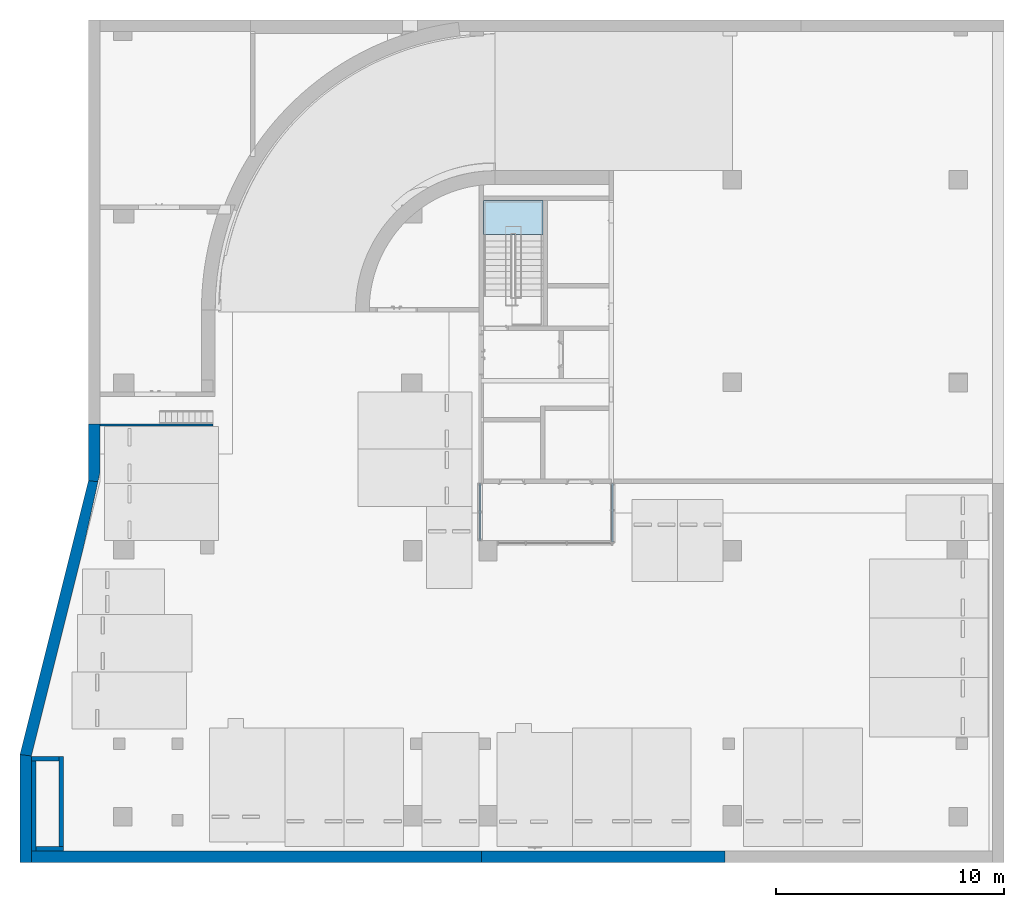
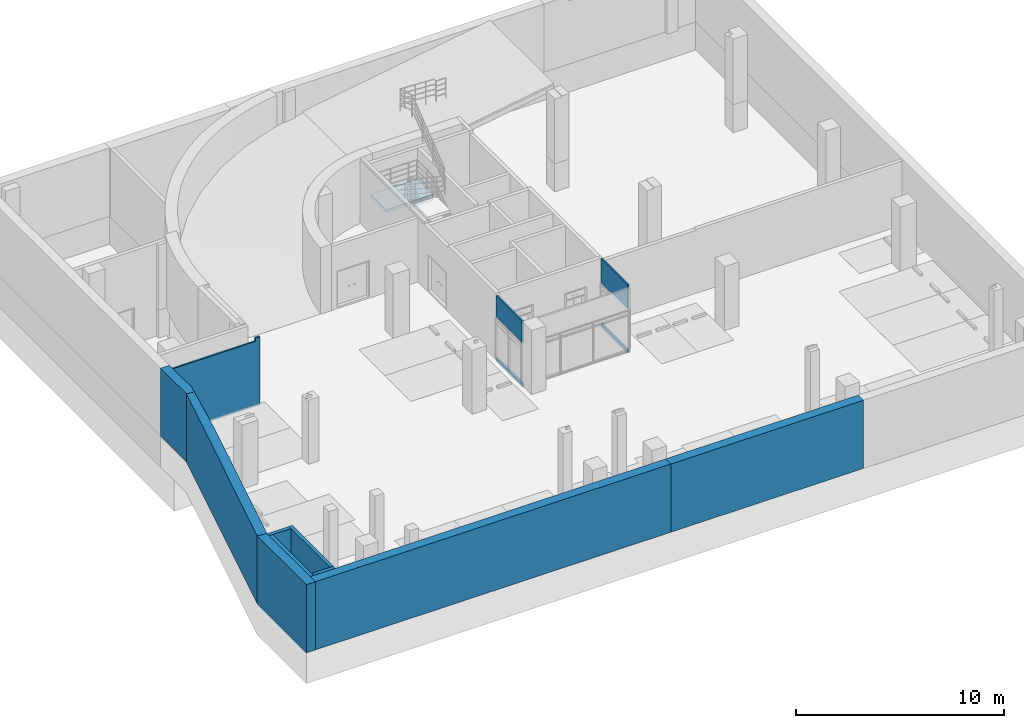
# One storey, part 5 of 30: 12 walls, 1 slab, 2 openings, 1 element without a shape of its own.
"""IFC2X3 building model written with IfcOpenShell, lengths in millimetres."""

from ifc_helpers import new_model, entity, si_unit, converted_unit, derived_unit, direction, frame, frame_2d, origin, place, context, subcontext, project, spatial, polyline, rectangle, outline, extrude, clip, bounded_halfspace, faceted_brep, material, layer, layer_set, layer_usage, type_object, element, aggregate, save


model = new_model("IFC2X3")

# Units and contexts
model_context = context("Model", 3, precision=0.01, world=origin(), true_north=direction((6.123031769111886e-17, 1.0)))
body_context = subcontext(model_context, "Body", "Model", "MODEL_VIEW")
ifc_project = project(units=[si_unit("LENGTHUNIT", "METRE", prefix="MILLI"), si_unit("AREAUNIT", "SQUARE_METRE"), si_unit("VOLUMEUNIT", "CUBIC_METRE"), converted_unit("PLANEANGLEUNIT", "DEGREE", entity("IfcRatioMeasure", 0.017453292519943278), si_unit("PLANEANGLEUNIT", "RADIAN"), dimensions=[0, 0, 0, 0, 0, 0, 0]), si_unit("MASSUNIT", "GRAM", prefix="KILO"), derived_unit("MASSDENSITYUNIT", [(si_unit("MASSUNIT", "GRAM", prefix="KILO"), 1), (si_unit("LENGTHUNIT", "METRE"), -3)]), derived_unit("MOMENTOFINERTIAUNIT", [(si_unit("LENGTHUNIT", "METRE"), 4)]), si_unit("TIMEUNIT", "SECOND"), si_unit("FREQUENCYUNIT", "HERTZ"), si_unit("THERMODYNAMICTEMPERATUREUNIT", "DEGREE_CELSIUS"), derived_unit("THERMALTRANSMITTANCEUNIT", [(si_unit("MASSUNIT", "GRAM", prefix="KILO"), 1), (si_unit("THERMODYNAMICTEMPERATUREUNIT", "KELVIN"), -1), (si_unit("TIMEUNIT", "SECOND"), -3)]), derived_unit("VOLUMETRICFLOWRATEUNIT", [(si_unit("LENGTHUNIT", "METRE"), 3), (si_unit("TIMEUNIT", "SECOND"), -1)]), derived_unit("MASSFLOWRATEUNIT", [(si_unit("MASSUNIT", "GRAM", prefix="KILO"), 1), (si_unit("TIMEUNIT", "SECOND"), -1)]), derived_unit("ROTATIONALFREQUENCYUNIT", [(si_unit("TIMEUNIT", "SECOND"), -1)]), si_unit("ELECTRICCURRENTUNIT", "AMPERE"), si_unit("ELECTRICVOLTAGEUNIT", "VOLT"), si_unit("POWERUNIT", "WATT"), si_unit("FORCEUNIT", "NEWTON", prefix="KILO"), si_unit("ILLUMINANCEUNIT", "LUX"), si_unit("LUMINOUSFLUXUNIT", "LUMEN"), si_unit("LUMINOUSINTENSITYUNIT", "CANDELA"), derived_unit("USERDEFINED", [(si_unit("MASSUNIT", "GRAM", prefix="KILO"), -1), (si_unit("LENGTHUNIT", "METRE"), -2), (si_unit("TIMEUNIT", "SECOND"), 3), (si_unit("LUMINOUSFLUXUNIT", "LUMEN"), 1)]), derived_unit("SOUNDPOWERUNIT", [(si_unit("MASSUNIT", "GRAM", prefix="KILO"), 1), (si_unit("LENGTHUNIT", "METRE"), 2), (si_unit("TIMEUNIT", "SECOND"), -3)]), derived_unit("SOUNDPRESSUREUNIT", [(si_unit("MASSUNIT", "GRAM", prefix="KILO"), 1), (si_unit("LENGTHUNIT", "METRE"), -1), (si_unit("TIMEUNIT", "SECOND"), -2)]), derived_unit("LINEARVELOCITYUNIT", [(si_unit("LENGTHUNIT", "METRE"), 1), (si_unit("TIMEUNIT", "SECOND"), -1)]), si_unit("PRESSUREUNIT", "PASCAL"), derived_unit("USERDEFINED", [(si_unit("LENGTHUNIT", "METRE"), -2), (si_unit("MASSUNIT", "GRAM", prefix="KILO"), 1), (si_unit("TIMEUNIT", "SECOND"), -2)]), derived_unit("LINEARFORCEUNIT", [(si_unit("MASSUNIT", "GRAM", prefix="KILO"), 1), (si_unit("LENGTHUNIT", "METRE"), 1), (si_unit("TIMEUNIT", "SECOND"), -2), (si_unit("LENGTHUNIT", "METRE"), -1)]), derived_unit("PLANARFORCEUNIT", [(si_unit("MASSUNIT", "GRAM", prefix="KILO"), 1), (si_unit("LENGTHUNIT", "METRE"), 1), (si_unit("TIMEUNIT", "SECOND"), -2), (si_unit("LENGTHUNIT", "METRE"), -2)])], contexts=[model_context])

# Site, building, storey
site_placement = place(None, frame((-14167.972527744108, -657.2125860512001, 0.0)))
site = spatial("IfcSite", under=ifc_project, at=site_placement, Name="Default", CompositionType="ELEMENT")
building_placement = place(site_placement, origin())
building = spatial("IfcBuilding", under=site, at=building_placement, Name="Sample Building", CompositionType="ELEMENT")
storey_placement = place(building_placement, frame((0.0, 0.0, -10100.0)))
storey = spatial("IfcBuildingStorey", under=building, at=storey_placement, Name="지하2층", CompositionType="ELEMENT", Elevation=-10100.0)

# Stair, slab
stair_placement = place(storey_placement, origin())
stair = element("IfcStair", 1, at=stair_placement, inside=storey, Name="현장타설 계단:계단", ObjectType="현장타설 계단:ST111-철근콘크리트구조 계단 (U형)", ShapeType="NOTDEFINED")
ifc_material_1 = material(Name="KBIMS-콘크리트")
slab_type = type_object("IfcSlabType", Name="일체형 계단참:일체형 계단참 150mm_철근콘크리트", PredefinedType="LANDING")
slab_placement = place(stair_placement, frame((30266.125814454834, 26457.21227858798, 0.0)))
slab = element("IfcSlab", 2, at=slab_placement, type_object=slab_type, material=ifc_material_1, Name="현장타설 계단:계단:5957725 Landing 1", ObjectType="일체형 계단참:일체형 계단참 150mm_철근콘크리트", PredefinedType="LANDING", context=body_context, shape_type="Brep", body=[
    faceted_brep([(1351.846631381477, 0.0, 2190.476190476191), (2600.0467219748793, 0.0, 2190.476190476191), (2600.0467219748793, 315.61603421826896, 2190.476190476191), (2600.0467219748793, 1500.0000294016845, 2190.476190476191), (0.0, 1500.0000294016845, 2190.476190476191), (0.0, 0.0, 2190.476190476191), (1251.8466766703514, 0.0, 2190.476190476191), (1351.846631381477, 0.0, 2040.4761904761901), (1351.846631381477, 0.0, 2009.5238095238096), (1351.846631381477, 0.0, 1828.95221692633), (2600.0467219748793, 0.0, 1828.95221692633), (2600.0467219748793, 0.0, 2009.5238095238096), (2600.0467219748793, 315.61603421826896, 2040.4761904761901), (2600.0467219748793, 1500.0000294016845, 2040.4761904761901), (0.0, 1500.0000294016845, 2040.4761904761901), (0.0, 0.0, 2040.4761904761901), (1251.8466766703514, 0.0, 2040.4761904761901), (1351.846631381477, 315.61603421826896, 2040.4761904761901)], [[[0, 1, 2, 3, 4, 5, 6]], [[1, 0, 7, 8, 9, 10, 11]], [[1, 11, 10, 12, 13, 3, 2]], [[4, 3, 13, 14]], [[5, 4, 14, 15]], [[6, 5, 15, 16]], [[0, 6, 16, 7]], [[12, 17, 7, 16, 15, 14, 13]], [[17, 12, 10, 9]], [[7, 17, 9, 8]]]),
])
aggregate(stair, [slab])

# Walls
ifc_layer_1 = layer(ifc_material_1, 500.00000000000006)
ifc_layer_set_1 = layer_set([ifc_layer_1], Name="기본 벽:WA111-철근콘크리트구조 벽 500mm_BW1")
ifc_layer_usage_1 = layer_usage(ifc_layer_set_1, "AXIS2", "NEGATIVE", 250.00000000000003)
wall_type_1 = type_object("IfcWallType", Name="기본 벽:WA111-철근콘크리트구조 벽 500mm_BW1", PredefinedType="STANDARD", material=ifc_layer_set_1)
wall_1_placement = place(storey_placement, frame((10217.972491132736, -1042.78769201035, 0.0), z_axis=(0.0, 0.0, 1.0), x_axis=(0.0, 1.0, 0.0)))
element("IfcWallStandardCase", 3, at=wall_1_placement, inside=storey, type_object=wall_type_1, material=ifc_layer_usage_1, Name="기본 벽:WA111-철근콘크리트구조 벽 500mm_BW1", ObjectType="기본 벽:WA111-철근콘크리트구조 벽 500mm_BW1", context=body_context, shape_type="SweptSolid", body=[
    extrude(outline(polyline([(4663.068312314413, -250.0), (4724.621125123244, 250.0), (0.0, 250.0), (0.0, -250.0), (500.0, -250.0), (4663.068312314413, -250.0)])), origin(), (0.0, 0.0, 1.0), 4000.0000000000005),
])
ifc_layer_usage_2 = layer_usage(ifc_layer_set_1, "AXIS2", "NEGATIVE", 250.00000000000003)
wall_2_placement = place(storey_placement, frame((10210.508116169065, 3621.1995268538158, 0.0), z_axis=(0.0, 0.0, 1.0), x_axis=(0.24253562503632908, 0.9701425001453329, 0.0)))
element("IfcWallStandardCase", 4, at=wall_2_placement, inside=storey, type_object=wall_type_1, material=ifc_layer_usage_2, Name="기본 벽:WA111-철근콘크리트구조 벽 500mm_BW1", ObjectType="기본 벽:WA111-철근콘크리트구조 벽 500mm_BW1", context=body_context, shape_type="Clipping", body=[
    clip(clip(extrude(outline(polyline([(12430.869689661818, -250.0), (12369.316876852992, 250.0), (0.0, 250.0), (61.55281280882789, -250.0), (12430.869689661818, -250.0)])), origin(), (0.0, 0.0, 1.0), 4000.0000000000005), bounded_halfspace(frame((9351.608782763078, -250.0, 3800.0), z_axis=(0.0, 0.0, -1.0), x_axis=(0.9995872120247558, 0.028729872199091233, 0.0)), True, frame((9351.608782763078, -250.0, 3800.0), z_axis=(0.0, 0.0, -1.0), x_axis=(0.9995872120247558, 0.028729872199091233, 0.0)), polyline([(0.0, 8.258631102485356e-09), (935635.7786806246, 7.736002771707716e-09), (938171.2986672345, 26964.672204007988), (70427.14334878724, 2024.1983925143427), (0.0, 8.258631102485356e-09)]))), bounded_halfspace(frame((12420.012849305, -161.80873902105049, 4000.0), z_axis=(-0.028729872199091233, 0.9995872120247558, 0.0), x_axis=(0.0, 0.0, 1.0)), True, frame((12420.012849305, -161.80873902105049, 4000.0), z_axis=(-0.028729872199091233, 0.9995872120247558, 0.0), x_axis=(0.0, 0.0, 1.0)), polyline([(0.0, 0.0), (-60960.0, 0.0), (-60960.0, -935635.7786803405), (-45720.0, -935635.7786803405), (0.0, -935635.7786803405), (0.0, 0.0)]))),
])
ifc_layer_usage_3 = layer_usage(ifc_layer_set_1, "AXIS2", "NEGATIVE", 250.00000000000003)
wall_3_placement = place(storey_placement, frame((13217.972491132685, 15620.280620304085, 0.0), z_axis=(0.0, 0.0, 1.0), x_axis=(0.0, 1.0, 0.0)))
element("IfcWallStandardCase", 5, at=wall_3_placement, inside=storey, type_object=wall_type_1, material=ifc_layer_usage_3, Name="기본 벽:WA111-철근콘크리트구조 벽 500mm_BW1", ObjectType="기본 벽:WA111-철근콘크리트구조 벽 500mm_BW1", context=body_context, shape_type="Clipping", body=[
    clip(clip(extrude(outline(polyline([(61.55281280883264, 250.0), (0.0, -250.0), (2446.9316876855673, -250.0), (2536.9316876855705, -250.0), (2541.552812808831, -250.0), (2541.5528128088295, 250.0), (2536.9316876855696, 250.0), (61.55281280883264, 250.0)])), origin(), (0.0, 0.0, 1.0), 4000.0000000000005), bounded_halfspace(frame((10.856840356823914, -161.8087390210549, 3800.0), z_axis=(0.0, 0.0, -1.0), x_axis=(0.9767100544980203, -0.21456343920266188, 0.0)), True, frame((10.856840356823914, -161.8087390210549, 3800.0), z_axis=(0.0, 0.0, -1.0), x_axis=(0.9767100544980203, -0.21456343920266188, 0.0)), polyline([(0.0, 0.0), (125280.8793814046, 0.0), (2535.519986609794, 26964.67220399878), (0.0, 0.0)]))), bounded_halfspace(frame((10.856840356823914, -161.8087390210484, 4000.0), z_axis=(0.21456343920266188, 0.9767100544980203, 0.0), x_axis=(0.0, 0.0, 1.0)), True, frame((10.856840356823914, -161.8087390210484, 4000.0), z_axis=(0.21456343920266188, 0.9767100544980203, 0.0), x_axis=(0.0, 0.0, 1.0)), polyline([(0.0, 0.0), (0.0, 125280.87938129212), (-60960.0, 125280.87938129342), (-60960.0, 0.0), (0.0, 0.0)]))),
])
ifc_layer_usage_4 = layer_usage(ifc_layer_set_1, "AXIS2", "NEGATIVE", 250.00000000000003)
wall_4_placement = place(storey_placement, frame((30177.97249113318, -792.7876920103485, 0.0), z_axis=(0.0, 0.0, 1.0), x_axis=(-1.0, 0.0, 0.0)))
element("IfcWallStandardCase", 6, at=wall_4_placement, inside=storey, type_object=wall_type_1, material=ifc_layer_usage_4, Name="기본 벽:WA111-철근콘크리트구조 벽 500mm_BW1", ObjectType="기본 벽:WA111-철근콘크리트구조 벽 500mm_BW1", context=body_context, shape_type="SweptSolid", body=[
    extrude(rectangle(XDim=19710.000000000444, YDim=500.0, at=frame_2d((9855.000000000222, 4.263256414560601e-14), x_axis=(-1.0, 0.0))), origin(), (0.0, 0.0, 1.0), 4000.0000000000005),
])
ifc_layer_2 = layer(ifc_material_1, 200.0)
ifc_layer_set_2 = layer_set([ifc_layer_2], Name="기본 벽:WA111-철근콘크리트구조 벽 200mm_W1")
ifc_layer_usage_5 = layer_usage(ifc_layer_set_2, "AXIS2", "NEGATIVE", 100.0)
wall_type_2 = type_object("IfcWallType", Name="기본 벽:WA111-철근콘크리트구조 벽 200mm_W1", PredefinedType="STANDARD", material=ifc_layer_set_2)
wall_5_placement = place(storey_placement, frame((10467.972417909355, 3502.9138206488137, 0.0)))
element("IfcWallStandardCase", 7, at=wall_5_placement, inside=storey, type_object=wall_type_2, material=ifc_layer_usage_5, Name="기본 벽:WA111-철근콘크리트구조 벽 200mm_W1", ObjectType="기본 벽:WA111-철근콘크리트구조 벽 200mm_W1", context=body_context, shape_type="SweptSolid", body=[
    extrude(rectangle(XDim=1209.9999999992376, YDim=200.0, at=frame_2d((604.9999999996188, 0.0), x_axis=(-1.0, 0.0))), origin(), (0.0, 0.0, 1.0), 4000.0000000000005),
])
ifc_layer_usage_6 = layer_usage(ifc_layer_set_2, "AXIS2", "NEGATIVE", 100.0)
wall_6_placement = place(storey_placement, frame((10567.972417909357, -542.7877350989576, 0.0), z_axis=(0.0, 0.0, 1.0), x_axis=(0.0, 1.0, 0.0)))
element("IfcWallStandardCase", 8, at=wall_6_placement, inside=storey, type_object=wall_type_2, material=ifc_layer_usage_6, Name="기본 벽:WA111-철근콘크리트구조 벽 200mm_W1", ObjectType="기본 벽:WA111-철근콘크리트구조 벽 200mm_W1", context=body_context, shape_type="SweptSolid", body=[
    extrude(rectangle(XDim=3945.7015557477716, YDim=200.0, at=frame_2d((1972.8507778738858, 1.0871303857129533e-12), x_axis=(-1.0, 0.0))), origin(), (0.0, 0.0, 1.0), 4000.0000000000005),
])
ifc_layer_usage_7 = layer_usage(ifc_layer_set_2, "AXIS2", "NEGATIVE", 100.0)
wall_7_placement = place(storey_placement, frame((11877.972417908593, -442.78773509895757, 0.0), z_axis=(0.0, 0.0, 1.0), x_axis=(-1.0, 0.0, 0.0)))
element("IfcWallStandardCase", 9, at=wall_7_placement, inside=storey, type_object=wall_type_2, material=ifc_layer_usage_7, Name="기본 벽:WA111-철근콘크리트구조 벽 200mm_W1", ObjectType="기본 벽:WA111-철근콘크리트구조 벽 200mm_W1", context=body_context, shape_type="SweptSolid", body=[
    extrude(rectangle(XDim=1209.9999999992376, YDim=200.0, at=frame_2d((604.9999999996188, 0.0), x_axis=(-1.0, 0.0))), origin(), (0.0, 0.0, 1.0), 4000.0000000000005),
])
ifc_layer_usage_8 = layer_usage(ifc_layer_set_2, "AXIS2", "NEGATIVE", 100.0)
wall_8_placement = place(storey_placement, frame((11777.972417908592, 3602.9138206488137, 0.0), z_axis=(0.0, 0.0, 1.0), x_axis=(0.0, -1.0, 0.0)))
element("IfcWallStandardCase", 10, at=wall_8_placement, inside=storey, type_object=wall_type_2, material=ifc_layer_usage_8, Name="기본 벽:WA111-철근콘크리트구조 벽 200mm_W1", ObjectType="기본 벽:WA111-철근콘크리트구조 벽 200mm_W1", context=body_context, shape_type="SweptSolid", body=[
    extrude(rectangle(XDim=3945.7015557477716, YDim=200.0, at=frame_2d((1972.8507778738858, 1.0871303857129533e-12), x_axis=(-1.0, 0.0))), origin(), (0.0, 0.0, 1.0), 4000.0000000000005),
])

# Wall, opening
ifc_material_2 = material(Name="KBIMS-시멘트 벽돌")
ifc_layer_3 = layer(ifc_material_2, 90.0)
ifc_layer_set_3 = layer_set([ifc_layer_3], Name="기본 벽:WA211-시멘트벽돌(일반) 벽 (0.5B) 90mm")
ifc_layer_usage_9 = layer_usage(ifc_layer_set_3, "AXIS2", "NEGATIVE", 45.0)
wall_type_3 = type_object("IfcWallType", Name="기본 벽:WA211-시멘트벽돌(일반) 벽 (0.5B) 90mm", PredefinedType="STANDARD", material=ifc_layer_set_3)
wall_9_placement = place(storey_placement, frame((30116.125814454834, 15557.212586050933, 0.0), z_axis=(0.0, 0.0, 1.0), x_axis=(0.0, -1.0, 0.0)))
wall_9 = element("IfcWallStandardCase", 11, at=wall_9_placement, inside=storey, type_object=wall_type_3, material=ifc_layer_usage_9, Name="기본 벽:WA211-시멘트벽돌(일반) 벽 (0.5B) 90mm", ObjectType="기본 벽:WA211-시멘트벽돌(일반) 벽 (0.5B) 90mm", context=body_context, shape_type="Clipping", body=[
    clip(extrude(rectangle(XDim=2500.00027806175, YDim=90.0000000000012, at=frame_2d((1250.0001390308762, -2.1671553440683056e-12), x_axis=(-1.0, 0.0))), origin(), (0.0, 0.0, 1.0), 3849.9999999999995), bounded_halfspace(frame((0.0, -45.0, 3850.0), z_axis=(0.0, 0.0, -1.0), x_axis=(0.0, 1.0, 0.0)), True, frame((0.0, -45.0, 3850.0), z_axis=(0.0, 0.0, -1.0), x_axis=(0.0, 1.0, 0.0)), polyline([(0.0, 0.0), (27432.0, 0.0), (27432.0, 762000.0847532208), (-1.321097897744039e-09, 762000.0847532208), (0.0, 0.0)]))),
])
opening_1_placement = place(wall_9_placement, origin())
element("IfcOpeningElement", 12, at=opening_1_placement, cuts=wall_9, Name="기본 벽:WA211-시멘트벽돌(일반) 벽 (0.5B) 90mm", ObjectType="Opening", context=body_context, shape_type="SweptSolid", body=[
    extrude(rectangle(XDim=2390.0, YDim=2500.00027806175, at=frame_2d((1.0231815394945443e-12, 1.1368683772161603e-12), x_axis=(1.0, 0.0))), frame((1250.000139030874, -197.40000000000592, 1395.0), z_axis=(0.0, 1.0, 0.0), x_axis=(0.0, 0.0, 1.0)), (0.0, 0.0, 1.0), 394.8000000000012),
])

ifc_layer_usage_10 = layer_usage(ifc_layer_set_3, "AXIS2", "NEGATIVE", 45.0)
wall_10_placement = place(storey_placement, frame((35922.97249113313, 13002.212586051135, 0.0), z_axis=(0.0, 0.0, 1.0), x_axis=(0.0, 1.0, 0.0)))
wall_10 = element("IfcWallStandardCase", 13, at=wall_10_placement, inside=storey, type_object=wall_type_3, material=ifc_layer_usage_10, Name="기본 벽:WA211-시멘트벽돌(일반) 벽 (0.5B) 90mm", ObjectType="기본 벽:WA211-시멘트벽돌(일반) 벽 (0.5B) 90mm", context=body_context, shape_type="SweptSolid", body=[
    extrude(rectangle(XDim=2554.999999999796, YDim=90.0000000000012, at=frame_2d((1277.499999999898, -2.206235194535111e-12), x_axis=(-1.0, 0.0))), origin(), (0.0, 0.0, 1.0), 4000.0000000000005),
])
opening_2_placement = place(wall_10_placement, origin())
element("IfcOpeningElement", 14, at=opening_2_placement, cuts=wall_10, Name="기본 벽:WA211-시멘트벽돌(일반) 벽 (0.5B) 90mm", ObjectType="Opening", context=body_context, shape_type="SweptSolid", body=[
    extrude(rectangle(XDim=2390.0000000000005, YDim=2599.9999999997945, at=frame_2d((2.1600499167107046e-12, 0.0), x_axis=(0.0, 1.0))), frame((1255.0, -197.40000000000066, 1395.0), z_axis=(0.0, 1.0, 0.0), x_axis=(-1.0, 0.0, 0.0)), (0.0, 0.0, 1.0), 394.8000000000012),
])

# Walls
ifc_layer_usage_11 = layer_usage(ifc_layer_set_3, "AXIS2", "NEGATIVE", 45.0)
wall_11_placement = place(storey_placement, frame((18417.963798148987, 18112.212307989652, 0.0), z_axis=(0.0, 0.0, 1.0), x_axis=(-1.0, 0.0, 0.0)))
element("IfcWallStandardCase", 15, at=wall_11_placement, inside=storey, type_object=wall_type_3, material=ifc_layer_usage_11, Name="기본 벽:WA211-시멘트벽돌(일반) 벽 (0.5B) 90mm", ObjectType="기본 벽:WA211-시멘트벽돌(일반) 벽 (0.5B) 90mm", context=body_context, shape_type="Clipping", body=[
    clip(clip(extrude(rectangle(XDim=4949.9913070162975, YDim=89.99999999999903, at=frame_2d((2474.9956535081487, 1.0835776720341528e-12), x_axis=(-1.0, 0.0))), origin(), (0.0, 0.0, 1.0), 4000.0000000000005), bounded_halfspace(frame((249.98348360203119, 45.0, 3800.0), z_axis=(0.0, 0.0, -1.0), x_axis=(0.0, 1.0, 0.0)), True, frame((249.98348360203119, 45.0, 3800.0), z_axis=(0.0, 0.0, -1.0), x_axis=(0.0, 1.0, 0.0)), polyline([(0.0, 0.0), (0.0, 60970.32228184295), (0.0, 1066807.683819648), (0.0, 1188727.6838196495), (0.0, 1432562.3845766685), (-27432.0, 1432562.3845766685), (-27432.0, 1188727.6838196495), (-27432.0, 1066807.683819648), (-27432.0, 60970.32228184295), (-27432.0, 0.0), (0.0, 0.0)]))), bounded_halfspace(frame((249.98348360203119, -45.0, 3800.0), z_axis=(-1.0, 0.0, 0.0), x_axis=(0.0, 0.0, 1.0)), True, frame((249.98348360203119, -45.0, 3800.0), z_axis=(-1.0, 0.0, 0.0), x_axis=(0.0, 0.0, 1.0)), polyline([(0.0, 0.0), (15240.0, 0.0), (60960.0, 0.0), (60960.0, 27432.0), (15240.0, 27432.0), (0.0, 27432.0), (0.0, 0.0)]))),
])
ifc_layer_4 = layer(ifc_material_1, 500.00000000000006)
ifc_layer_set_4 = layer_set([ifc_layer_4], Name="기본 벽:WA111-철근콘크리트구조 벽 500mm_BW2")
ifc_layer_usage_12 = layer_usage(ifc_layer_set_4, "AXIS2", "NEGATIVE", 250.00000000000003)
wall_type_4 = type_object("IfcWallType", Name="기본 벽:WA111-철근콘크리트구조 벽 500mm_BW2", PredefinedType="STANDARD", material=ifc_layer_set_4)
wall_12_placement = place(storey_placement, frame((40857.97249113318, -792.7876920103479, 0.0), z_axis=(0.0, 0.0, 1.0), x_axis=(-1.0, 0.0, 0.0)))
element("IfcWallStandardCase", 16, at=wall_12_placement, inside=storey, type_object=wall_type_4, material=ifc_layer_usage_12, Name="기본 벽:WA111-철근콘크리트구조 벽 500mm_BW2", ObjectType="기본 벽:WA111-철근콘크리트구조 벽 500mm_BW2", context=body_context, shape_type="SweptSolid", body=[
    extrude(rectangle(XDim=10679.999999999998, YDim=500.0, at=frame_2d((5339.999999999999, 0.0), x_axis=(-1.0, 0.0))), origin(), (0.0, 0.0, 1.0), 4000.0000000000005),
])

save(model, "model.ifc")
